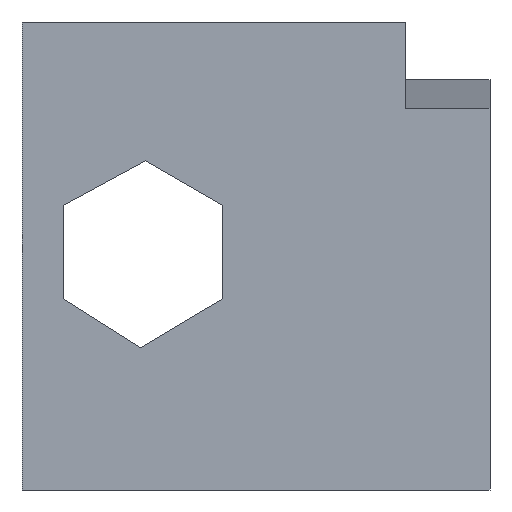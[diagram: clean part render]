
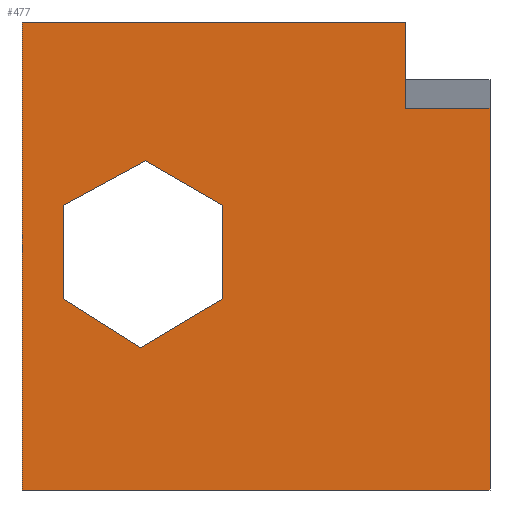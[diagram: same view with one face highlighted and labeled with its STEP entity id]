
A CAD part, left-side view. The second image highlights one B-rep face of the part: STEP entity #477.
In plain terms, the highlighted planar face has unit normal (-1, 0, 0).
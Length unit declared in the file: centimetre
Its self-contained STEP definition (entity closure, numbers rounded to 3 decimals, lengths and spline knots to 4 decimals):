
#11 = VERTEX_POINT ( 'NONE', #615 ) ;
#23 = ORIENTED_EDGE ( 'NONE', *, *, #426, .F. ) ;
#31 = VERTEX_POINT ( 'NONE', #565 ) ;
#46 = CARTESIAN_POINT ( 'NONE',  ( 0., 181.2477, 1000. ) ) ;
#71 = VERTEX_POINT ( 'NONE', #177 ) ;
#77 = CARTESIAN_POINT ( 'NONE',  ( 0., 181.2477, 815.3872 ) ) ;
#92 = ORIENTED_EDGE ( 'NONE', *, *, #339, .F. ) ;
#111 = CARTESIAN_POINT ( 'NONE',  ( 0., 181.2477, 815.3872 ) ) ;
#118 = FACE_BOUND ( 'NONE', #619, .T. ) ;
#125 = ORIENTED_EDGE ( 'NONE', *, *, #211, .F. ) ;
#134 = CARTESIAN_POINT ( 'NONE',  ( 0., 911.7353, 408.4506 ) ) ;
#145 = VECTOR ( 'NONE', #285, 100. ) ;
#147 = VERTEX_POINT ( 'NONE', #541 ) ;
#152 = CARTESIAN_POINT ( 'NONE',  ( 0., 0., 815.3872 ) ) ;
#155 = LINE ( 'NONE', #333, #424 ) ;
#173 = CARTESIAN_POINT ( 'NONE',  ( 0., 1000., 1000. ) ) ;
#177 = CARTESIAN_POINT ( 'NONE',  ( 0., 735.9934, 703.4517 ) ) ;
#180 = ORIENTED_EDGE ( 'NONE', *, *, #376, .F. ) ;
#186 = CARTESIAN_POINT ( 'NONE',  ( 0., 911.7353, 608.2489 ) ) ;
#190 = CARTESIAN_POINT ( 'NONE',  ( 0., 1000., 1000. ) ) ;
#194 = VECTOR ( 'NONE', #540, 100. ) ;
#205 = LINE ( 'NONE', #134, #194 ) ;
#209 = DIRECTION ( 'NONE',  ( 0., 0., -1. ) ) ;
#211 = EDGE_CURVE ( 'NONE', #444, #31, #372, .T. ) ;
#212 = EDGE_LOOP ( 'NONE', ( #23, #432, #434, #708, #649, #291 ) ) ;
#213 = CARTESIAN_POINT ( 'NONE',  ( 0., 571.0974, 408.4506 ) ) ;
#221 = LINE ( 'NONE', #456, #276 ) ;
#223 = EDGE_CURVE ( 'NONE', #558, #371, #293, .T. ) ;
#234 = AXIS2_PLACEMENT_3D ( 'NONE', #173, #578, #283 ) ;
#239 = CARTESIAN_POINT ( 'NONE',  ( 0., 571.0974, 408.4506 ) ) ;
#241 = CARTESIAN_POINT ( 'NONE',  ( 0., 571.0974, 608.2489 ) ) ;
#243 = CARTESIAN_POINT ( 'NONE',  ( 0., 1000., 0. ) ) ;
#246 = VERTEX_POINT ( 'NONE', #605 ) ;
#249 = VECTOR ( 'NONE', #538, 100. ) ;
#268 = CARTESIAN_POINT ( 'NONE',  ( 0., 1000., 1000. ) ) ;
#276 = VECTOR ( 'NONE', #590, 100. ) ;
#281 = VECTOR ( 'NONE', #670, 100. ) ;
#283 = DIRECTION ( 'NONE',  ( 0., 0., -1. ) ) ;
#285 = DIRECTION ( 'NONE',  ( 0., 0.866, 0.5 ) ) ;
#291 = ORIENTED_EDGE ( 'NONE', *, *, #461, .T. ) ;
#293 = LINE ( 'NONE', #77, #310 ) ;
#310 = VECTOR ( 'NONE', #416, 100. ) ;
#311 = EDGE_CURVE ( 'NONE', #246, #147, #205, .T. ) ;
#318 = ORIENTED_EDGE ( 'NONE', *, *, #311, .F. ) ;
#319 = DIRECTION ( 'NONE',  ( 0., 0.879, -0.476 ) ) ;
#323 = VERTEX_POINT ( 'NONE', #243 ) ;
#326 = VECTOR ( 'NONE', #429, 100. ) ;
#333 = CARTESIAN_POINT ( 'NONE',  ( 0., 0., 1000. ) ) ;
#335 = LINE ( 'NONE', #395, #455 ) ;
#339 = EDGE_CURVE ( 'NONE', #383, #246, #379, .T. ) ;
#345 = CARTESIAN_POINT ( 'NONE',  ( 0., 181.2477, 815.3872 ) ) ;
#352 = LINE ( 'NONE', #190, #677 ) ;
#371 = VERTEX_POINT ( 'NONE', #152 ) ;
#372 = LINE ( 'NONE', #239, #326 ) ;
#376 = EDGE_CURVE ( 'NONE', #71, #383, #568, .T. ) ;
#379 = LINE ( 'NONE', #186, #732 ) ;
#383 = VERTEX_POINT ( 'NONE', #726 ) ;
#387 = CARTESIAN_POINT ( 'NONE',  ( 0., 735.9934, 703.4517 ) ) ;
#394 = DIRECTION ( 'NONE',  ( 0., 0., -1. ) ) ;
#395 = CARTESIAN_POINT ( 'NONE',  ( 0., 1000., 1000. ) ) ;
#405 = FACE_OUTER_BOUND ( 'NONE', #212, .T. ) ;
#416 = DIRECTION ( 'NONE',  ( 0., -1., 0. ) ) ;
#424 = VECTOR ( 'NONE', #209, 100. ) ;
#426 = EDGE_CURVE ( 'NONE', #371, #11, #155, .T. ) ;
#429 = DIRECTION ( 'NONE',  ( 0., 0., 1. ) ) ;
#432 = ORIENTED_EDGE ( 'NONE', *, *, #223, .F. ) ;
#434 = ORIENTED_EDGE ( 'NONE', *, *, #542, .F. ) ;
#444 = VERTEX_POINT ( 'NONE', #213 ) ;
#447 = VERTEX_POINT ( 'NONE', #46 ) ;
#448 = LINE ( 'NONE', #617, #281 ) ;
#449 = VERTEX_POINT ( 'NONE', #268 ) ;
#451 = EDGE_CURVE ( 'NONE', #147, #444, #448, .T. ) ;
#455 = VECTOR ( 'NONE', #394, 100. ) ;
#456 = CARTESIAN_POINT ( 'NONE',  ( 0., 1000., 0. ) ) ;
#461 = EDGE_CURVE ( 'NONE', #323, #11, #221, .T. ) ;
#475 = DIRECTION ( 'NONE',  ( 0., 0., -1. ) ) ;
#477 = ADVANCED_FACE ( 'NONE', ( #118, #405 ), #523, .F. ) ;
#486 = VECTOR ( 'NONE', #319, 100. ) ;
#523 = PLANE ( 'NONE',  #234 ) ;
#538 = DIRECTION ( 'NONE',  ( 0., 0., -1. ) ) ;
#540 = DIRECTION ( 'NONE',  ( 0., -0.844, -0.536 ) ) ;
#541 = CARTESIAN_POINT ( 'NONE',  ( 0., 746.8393, 303.855 ) ) ;
#542 = EDGE_CURVE ( 'NONE', #447, #558, #701, .T. ) ;
#558 = VERTEX_POINT ( 'NONE', #111 ) ;
#565 = CARTESIAN_POINT ( 'NONE',  ( 0., 571.0974, 608.2489 ) ) ;
#568 = LINE ( 'NONE', #387, #486 ) ;
#570 = EDGE_CURVE ( 'NONE', #31, #71, #584, .T. ) ;
#578 = DIRECTION ( 'NONE',  ( 1., 0., 0. ) ) ;
#583 = EDGE_CURVE ( 'NONE', #449, #447, #352, .T. ) ;
#584 = LINE ( 'NONE', #241, #145 ) ;
#590 = DIRECTION ( 'NONE',  ( 0., -1., 0. ) ) ;
#599 = ORIENTED_EDGE ( 'NONE', *, *, #570, .F. ) ;
#605 = CARTESIAN_POINT ( 'NONE',  ( 0., 911.7353, 408.4506 ) ) ;
#615 = CARTESIAN_POINT ( 'NONE',  ( 0., 0., 0. ) ) ;
#617 = CARTESIAN_POINT ( 'NONE',  ( 0., 746.8393, 303.855 ) ) ;
#619 = EDGE_LOOP ( 'NONE', ( #92, #180, #599, #125, #694, #318 ) ) ;
#643 = DIRECTION ( 'NONE',  ( 0., -1., 0. ) ) ;
#649 = ORIENTED_EDGE ( 'NONE', *, *, #736, .T. ) ;
#670 = DIRECTION ( 'NONE',  ( 0., -0.859, 0.511 ) ) ;
#677 = VECTOR ( 'NONE', #643, 100. ) ;
#694 = ORIENTED_EDGE ( 'NONE', *, *, #451, .F. ) ;
#701 = LINE ( 'NONE', #345, #249 ) ;
#708 = ORIENTED_EDGE ( 'NONE', *, *, #583, .F. ) ;
#726 = CARTESIAN_POINT ( 'NONE',  ( 0., 911.7353, 608.2489 ) ) ;
#732 = VECTOR ( 'NONE', #475, 100. ) ;
#736 = EDGE_CURVE ( 'NONE', #449, #323, #335, .T. ) ;
